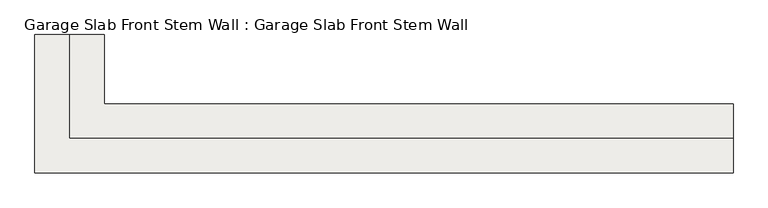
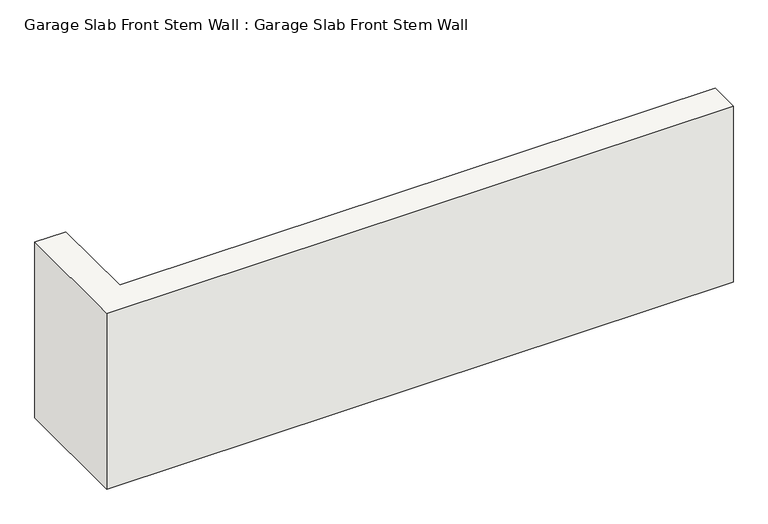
"""IFC4 building model written with IfcOpenShell, lengths in millimetres: slab geometry, Garage Slab Front Stem Wall : Garage Slab Front Stem Wall."""

from ifc_helpers import new_model, si_unit, origin, place, context, project, spatial, faceted_brep, source, transform, mapped, element, save


def garage_slab_front_stem_wall_garage_slab_front_stem_wall_548c59a8(model_context):
    return source(origin(), model_context, "Body", "Brep", [
        faceted_brep([(-12319.9178637, 5177.3349287, -914.4), (-12319.9178637, 5177.3349287, -346.9472754), (-12319.9178637, 5177.3349287, -342.9), (-12319.9178637, 5024.9349287, -342.9), (-12319.9178637, 5024.9349287, -263.2232732), (-12319.9178637, 5024.9349287, 0.0), (-12319.9178637, 4872.5349287, 0.0), (-12319.9178637, 4872.5349287, -263.2232732), (-12319.9178637, 4872.5349287, -914.4), (-14942.4678637, 5177.3349287, -914.4), (-15094.8678637, 5177.3349287, -914.4), (-15094.8678637, 5177.3349287, -404.9119999), (-15094.8678637, 5177.3349287, -342.9), (-15094.8678637, 5482.1349287, -342.9), (-15247.2678637, 5482.1349287, -342.9), (-15247.2678637, 5024.9349287, -342.9), (-15247.2678637, 5024.9349287, -304.83175), (-15247.2678637, 5024.9349287, 0.0), (-15164.7178637, 5024.9349287, 0.0), (-15247.2678637, 5482.1349287, 0.0), (-15399.6678637, 5482.1349287, 0.0), (-15399.6678637, 4872.5349287, 0.0), (-15399.6678637, 4872.5349287, -914.4), (-15399.6678637, 5482.1349287, -914.4), (-15247.2678637, 5482.1349287, -914.4), (-15094.8678637, 5482.1349287, -914.4), (-15247.2678637, 5482.1349287, -304.8), (-15094.8678637, 5482.1349287, -404.9119999)], [[[0, 1, 2, 3, 4, 5, 6, 7, 8]], [[2, 1, 0, 9, 10, 11, 12]], [[3, 2, 12, 13, 14, 15]], [[5, 4, 3, 15, 16, 17, 18]], [[6, 5, 18, 17, 19, 20, 21]], [[8, 7, 6, 21, 22]], [[0, 8, 22, 23, 24, 25, 10, 9]], [[25, 24, 23, 20, 19, 26, 14, 13, 27]], [[12, 11, 10, 25, 27, 13]], [[17, 16, 15, 14, 26, 19]], [[22, 21, 20, 23]]]),
    ])


if __name__ == "__main__":
    model = new_model("IFC4")
    model_context = context("Model", 3, world=origin())
    ifc_project = project(units=[si_unit("LENGTHUNIT", "METRE", prefix="MILLI")], contexts=[model_context])
    site = spatial("IfcSite", under=ifc_project)
    building = spatial("IfcBuilding", under=site)
    placement = place(None, origin())
    garage_slab_front_stem_wall_garage_slab_front_stem_wall_shape = garage_slab_front_stem_wall_garage_slab_front_stem_wall_548c59a8(model_context)
    element("IfcSlab", 1, ObjectType="Garage Slab Front Stem Wall : Garage Slab Front Stem Wall", at=placement, inside=building, context=model_context, shape_type="MappedRepresentation", body=[
        mapped(garage_slab_front_stem_wall_garage_slab_front_stem_wall_shape, transform((0.0, 0.0, 0.0), x_axis=(1.0, 0.0, 0.0), y_axis=(0.0, 1.0, 0.0), z_axis=(0.0, 0.0, 1.0))),
    ])
    save(model, "model.ifc")
